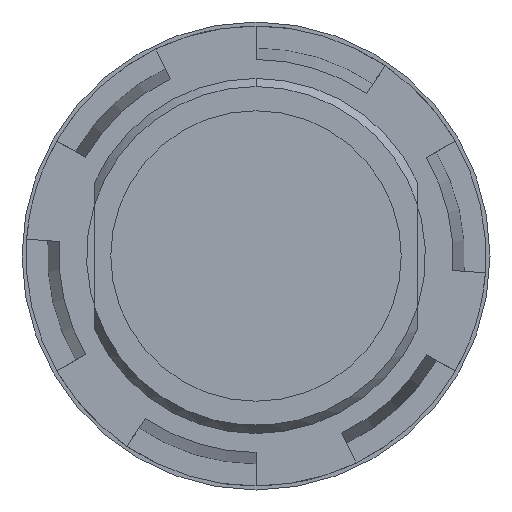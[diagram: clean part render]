
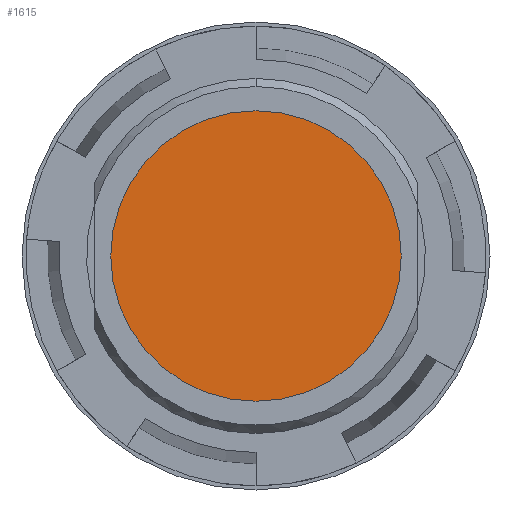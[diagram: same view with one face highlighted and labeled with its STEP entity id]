
A CAD part, front view. The second image highlights one B-rep face of the part: STEP entity #1615.
In plain terms, the highlighted planar face has unit normal (0, -1, 0).
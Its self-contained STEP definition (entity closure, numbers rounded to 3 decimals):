
#27 = DIRECTION ( 'NONE',  ( 0., 0., -1. ) ) ;
#109 = DIRECTION ( 'NONE',  ( 0., 1., 0. ) ) ;
#789 = CIRCLE ( 'NONE', #11129, 9. ) ;
#1245 = CARTESIAN_POINT ( 'NONE',  ( 14.5, -1., 0. ) ) ;
#1363 = AXIS2_PLACEMENT_3D ( 'NONE', #7687, #109, #8948 ) ;
#1615 = ADVANCED_FACE ( 'NONE', ( #1748 ), #13877, .T. ) ;
#1748 = FACE_OUTER_BOUND ( 'NONE', #12899, .T. ) ;
#2132 = AXIS2_PLACEMENT_3D ( 'NONE', #1245, #7604, #27 ) ;
#7084 = EDGE_CURVE ( 'NONE', #11811, #10973, #11164, .T. ) ;
#7137 = CARTESIAN_POINT ( 'NONE',  ( 0., -1., 0. ) ) ;
#7533 = CARTESIAN_POINT ( 'NONE',  ( 0., -1., 9. ) ) ;
#7604 = DIRECTION ( 'NONE',  ( 0., -1., 0. ) ) ;
#7687 = CARTESIAN_POINT ( 'NONE',  ( 0., -1., 0. ) ) ;
#8411 = DIRECTION ( 'NONE',  ( 0., 0., 1. ) ) ;
#8948 = DIRECTION ( 'NONE',  ( 0., 0., 1. ) ) ;
#8995 = EDGE_CURVE ( 'NONE', #10973, #11811, #789, .T. ) ;
#9764 = ORIENTED_EDGE ( 'NONE', *, *, #8995, .F. ) ;
#10973 = VERTEX_POINT ( 'NONE', #12264 ) ;
#11129 = AXIS2_PLACEMENT_3D ( 'NONE', #7137, #16012, #8411 ) ;
#11164 = CIRCLE ( 'NONE', #1363, 9. ) ;
#11811 = VERTEX_POINT ( 'NONE', #7533 ) ;
#12264 = CARTESIAN_POINT ( 'NONE',  ( 0., -1., -9. ) ) ;
#12899 = EDGE_LOOP ( 'NONE', ( #16034, #9764 ) ) ;
#13877 = PLANE ( 'NONE',  #2132 ) ;
#16012 = DIRECTION ( 'NONE',  ( 0., 1., 0. ) ) ;
#16034 = ORIENTED_EDGE ( 'NONE', *, *, #7084, .F. ) ;
